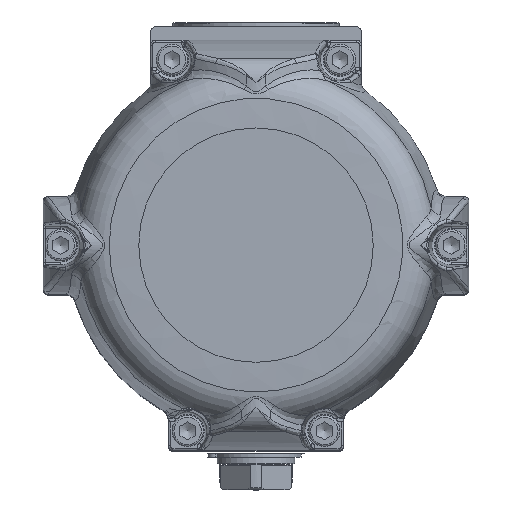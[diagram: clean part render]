
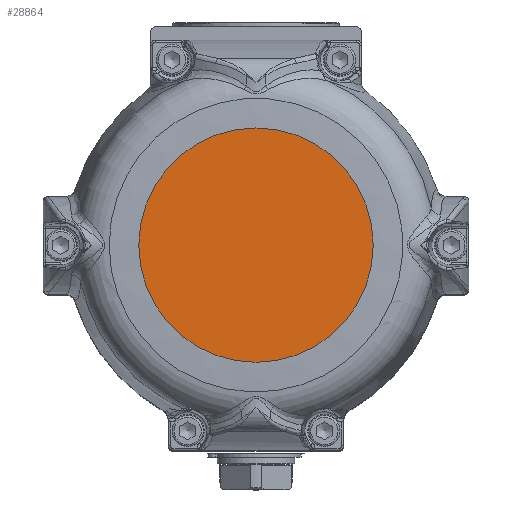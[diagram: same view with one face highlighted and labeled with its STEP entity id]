
A CAD part, top view. The second image highlights one B-rep face of the part: STEP entity #28864.
In plain terms, the highlighted planar face has unit normal (0, 0, 1).
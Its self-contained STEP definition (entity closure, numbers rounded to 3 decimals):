
#28848=CARTESIAN_POINT('',(-30.,0.,191.));
#28849=DIRECTION('',(0.0,0.0,1.0));
#28850=DIRECTION('',(0.0,-1.0,0.0));
#28851=AXIS2_PLACEMENT_3D('',#28848,#28849,#28850);
#28852=PLANE('',#28851);
#28853=CARTESIAN_POINT('',(-60.,0.,191.));
#28854=VERTEX_POINT('',#28853);
#28855=CARTESIAN_POINT('',(0.,0.,191.0));
#28856=DIRECTION('',(0.0,0.0,-1.0));
#28857=DIRECTION('',(-1.0,0.0,0.0));
#28858=AXIS2_PLACEMENT_3D('',#28855,#28856,#28857);
#28859=CIRCLE('',#28858,60.);
#28860=EDGE_CURVE('',#28854,#28854,#28859,.T.);
#28861=ORIENTED_EDGE('',*,*,#28860,.F.);
#28862=EDGE_LOOP('',(#28861));
#28863=FACE_OUTER_BOUND('',#28862,.T.);
#28864=ADVANCED_FACE('',(#28863),#28852,.T.);
